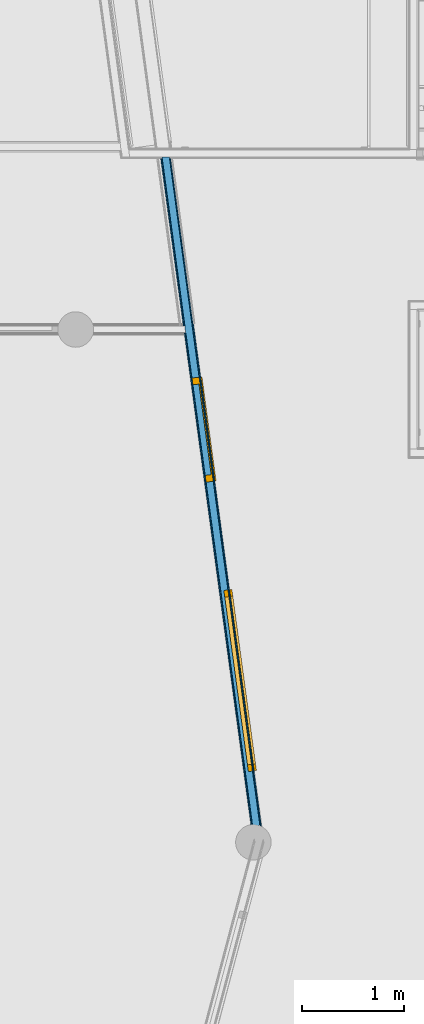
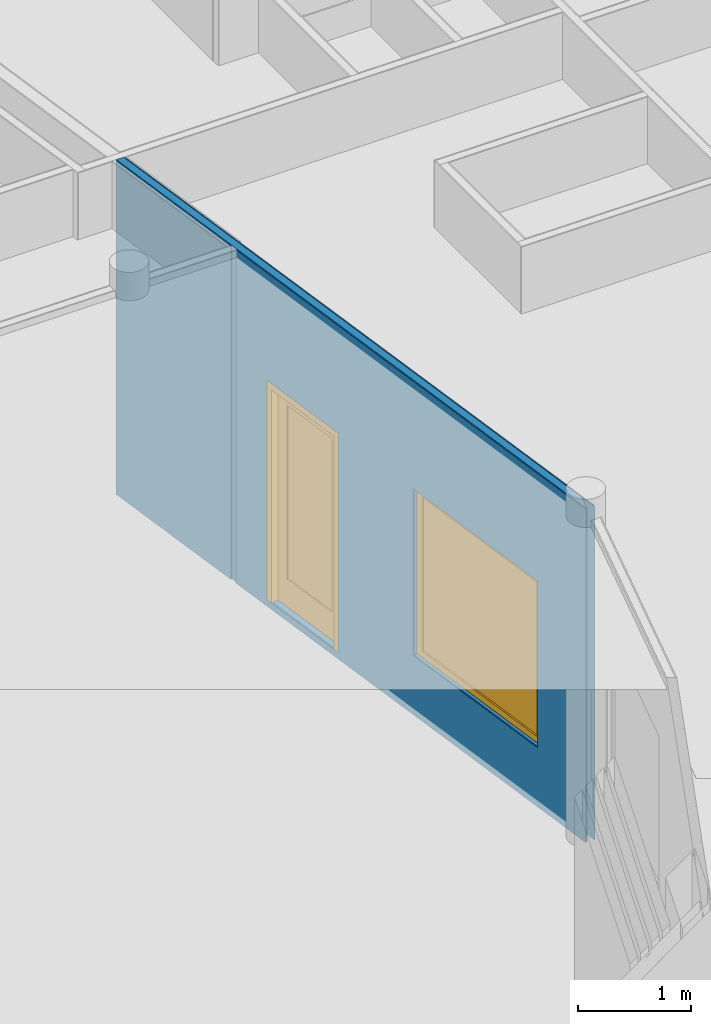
# One storey, part 33 of 167: 3 building element parts, 1 door, 1 window, 2 openings, 1 element without a shape of its own.
"""IFC2X3 building model written with IfcOpenShell, lengths in millimetres."""

from ifc_helpers import new_model, entity, si_unit, converted_unit, derived_unit, money_unit, direction, frame, origin_with_axes, place, context, subcontext, project, spatial, open_shell, faceted_brep, surface_model, source, transform, mapped, material, type_object, type_shapes, element, fill, aggregate, save


model = new_model("IFC2X3")

# Units and contexts
model_context = context("Model", 3, precision=0.01, world=origin_with_axes(), true_north=direction((0.0, 1.0)))
plan_context = context("Plan", 3, precision=0.01, world=origin_with_axes(), true_north=direction((0.0, 1.0)))
body_context = subcontext(model_context, "Body", "Model", "MODEL_VIEW")
ifc_project = project(units=[si_unit("LENGTHUNIT", "METRE", prefix="MILLI"), si_unit("AREAUNIT", "SQUARE_METRE"), si_unit("VOLUMEUNIT", "CUBIC_METRE"), converted_unit("PLANEANGLEUNIT", "DEGREE", entity("IfcPlaneAngleMeasure", 0.0174532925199), si_unit("PLANEANGLEUNIT", "RADIAN"), dimensions=[0, 0, 0, 0, 0, 0, 0]), si_unit("SOLIDANGLEUNIT", "STERADIAN"), money_unit("EUR"), converted_unit("TIMEUNIT", "Year", entity("IfcTimeMeasure", 31556926.0), si_unit("TIMEUNIT", "SECOND"), dimensions=[0, 0, 1, 0, 0, 0, 0]), si_unit("MASSUNIT", "GRAM", prefix="KILO"), si_unit("THERMODYNAMICTEMPERATUREUNIT", "DEGREE_CELSIUS"), si_unit("LUMINOUSINTENSITYUNIT", "LUMEN"), si_unit("ENERGYUNIT", "JOULE", prefix="MEGA"), derived_unit("THERMALCONDUCTANCEUNIT", [(si_unit("POWERUNIT", "WATT"), 1), (si_unit("LENGTHUNIT", "METRE"), -1), (si_unit("THERMODYNAMICTEMPERATUREUNIT", "KELVIN"), -1)]), derived_unit("SPECIFICHEATCAPACITYUNIT", [(si_unit("ENERGYUNIT", "JOULE"), 1), (si_unit("MASSUNIT", "GRAM", prefix="KILO"), -1), (si_unit("THERMODYNAMICTEMPERATUREUNIT", "KELVIN"), -1)]), derived_unit("MASSDENSITYUNIT", [(si_unit("MASSUNIT", "GRAM", prefix="KILO"), 1), (si_unit("VOLUMEUNIT", "CUBIC_METRE"), -1)])], contexts=[model_context, plan_context])

# Site, building, storey
site_placement = place(None, origin_with_axes())
site = spatial("IfcSite", under=ifc_project, at=site_placement, Name="Site", CompositionType="ELEMENT")
building_placement = place(site_placement, origin_with_axes())
building = spatial("IfcBuilding", under=site, at=building_placement, Name="Naam gebouw", CompositionType="ELEMENT")
storey_placement = place(building_placement, origin_with_axes())
storey = spatial("IfcBuildingStorey", under=building, at=storey_placement, Name="Begane grond", CompositionType="ELEMENT", Elevation=0.0)

# Window
window_style = type_object("IfcWindowStyle", Name="R1 24", ConstructionType="NOTDEFINED", OperationType="SINGLE_PANEL", ParameterTakesPrecedence=False, Sizeable=False)
shared_shape = source(origin_with_axes(), body_context, "Body", "SurfaceModel", [
    faceted_brep([(-833.0, -80.0, 1733.0), (-833.0, 0.0, 1733.0), (-900.0, 0.0, 1733.0), (-900.0, -80.0, 1733.0), (-833.0, -80.0, 67.0), (-833.0, 0.0, 67.0), (-900.0, 0.0, 67.0), (-900.0, -80.0, 67.0)], [[[0, 1, 2, 3]], [[4, 5, 1, 0]], [[1, 5, 6, 2]], [[3, 2, 6, 7]], [[0, 3, 7, 4]], [[7, 6, 5, 4]]]),
    faceted_brep([(833.0, -80.0, 67.0), (833.0, 0.0, 67.0), (900.0, 0.0, 67.0), (900.0, -80.0, 67.0), (833.0, -80.0, 1733.0), (833.0, 0.0, 1733.0), (900.0, 0.0, 1733.0), (900.0, -80.0, 1733.0)], [[[0, 1, 2, 3]], [[4, 5, 1, 0]], [[1, 5, 6, 2]], [[3, 2, 6, 7]], [[0, 3, 7, 4]], [[7, 6, 5, 4]]]),
    faceted_brep([(-833.0, -80.0, 67.0), (-833.0, 0.0, 67.0), (-900.0, 0.0, 67.0), (-900.0, -80.0, 67.0), (833.0, -80.0, 67.0), (833.0, 0.0, 67.0), (900.0, 0.0, 67.0), (900.0, 0.0, 0.0), (-900.0, 0.0, 0.0), (-900.0, -80.0, 0.0), (900.0, -80.0, 0.0), (900.0, -80.0, 67.0)], [[[0, 1, 2, 3]], [[4, 5, 1, 0]], [[1, 5, 6, 7, 8, 2]], [[3, 2, 8, 9]], [[0, 3, 9, 10, 11, 4]], [[11, 6, 5, 4]], [[10, 7, 6, 11]], [[9, 8, 7, 10]]]),
    faceted_brep([(833.0, -80.0, 1733.0), (833.0, 0.0, 1733.0), (900.0, 0.0, 1733.0), (900.0, -80.0, 1733.0), (-833.0, -80.0, 1733.0), (-833.0, 0.0, 1733.0), (-900.0, 0.0, 1733.0), (-900.0, 0.0, 1800.0), (900.0, 0.0, 1800.0), (900.0, -80.0, 1800.0), (-900.0, -80.0, 1800.0), (-900.0, -80.0, 1733.0)], [[[0, 1, 2, 3]], [[4, 5, 1, 0]], [[1, 5, 6, 7, 8, 2]], [[3, 2, 8, 9]], [[0, 3, 9, 10, 11, 4]], [[11, 6, 5, 4]], [[10, 7, 6, 11]], [[9, 8, 7, 10]]]),
    surface_model("IfcShellBasedSurfaceModel", [(-833.0, -64.0, 67.0), (833.0, -64.0, 67.0), (833.0, -64.0, 1733.0), (-833.0, -64.0, 1733.0)], [open_shell([[[0, 1, 2, 3]]])]),
    surface_model("IfcShellBasedSurfaceModel", [(-833.0, -44.0, 67.0), (-833.0, -44.0, 1733.0), (833.0, -44.0, 1733.0), (833.0, -44.0, 67.0)], [open_shell([[[0, 1, 2, 3]]])]),
])
type_shapes(window_style, [shared_shape])
wall_placement = place(storey_placement, frame((22480.8662525, 35586.3530919, -100.0), z_axis=(0.0, 0.0, 1.0), x_axis=(0.134213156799, -0.990952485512, 0.0)))
opening_1_placement = place(wall_placement, frame((5242.15777039, 0.0, 669.0), z_axis=(0.0, 0.0, 1.0), x_axis=(1.0, 0.0, 0.0)))
window_placement = place(opening_1_placement, frame((-900.0, 0.0, 0.0), z_axis=(0.0, 0.0, 1.0), x_axis=(1.0, 0.0, 0.0)))
window = element("IfcWindow", 1, at=window_placement, inside=storey, type_object=window_style, Name="31_Raam_Hi-47", ObjectType="WINDOW", OverallHeight=1800.0, OverallWidth=1800.0, context=body_context, shape_type="MappedRepresentation", body=[
    mapped(shared_shape, transform((900.0, 75.0, 0.0))),
])

# Door
door_style = type_object("IfcDoorStyle", Name="D1 24", ConstructionType="NOTDEFINED", OperationType="SINGLE_SWING_LEFT", ParameterTakesPrecedence=False, Sizeable=False)
opening_2_placement = place(wall_placement, frame((2745.53432515, 0.0, 102.0), z_axis=(0.0, 0.0, 1.0), x_axis=(1.0, 0.0, 0.0)))
door_placement = place(opening_2_placement, frame((-517.0, 0.0, 0.0), z_axis=(0.0, 0.0, 1.0), x_axis=(1.0, 0.0, 0.0)))
door = element("IfcDoor", 2, at=door_placement, inside=storey, type_object=door_style, Name="32_Deur_Hi-05a", ObjectType="DOOR", OverallHeight=2367.0, OverallWidth=1034.0, context=body_context, shape_type="SurfaceModel", body=[
    faceted_brep([(967.0, 24.0, 0.0), (967.0, -50.0, 0.0), (967.0, -50.0, 2300.0), (967.0, 24.0, 2300.0), (992.0, 24.0, 0.0), (992.0, 64.0, 0.0), (1034.0, 64.0, 0.0), (1034.0, -50.0, 0.0), (1034.0, -50.0, 2300.0), (992.0, 24.0, 2300.0), (1034.0, 64.0, 2300.0), (992.0, 64.0, 2300.0)], [[[0, 1, 2, 3]], [[4, 5, 6, 7, 1, 0]], [[1, 7, 8, 2]], [[9, 3, 2, 8, 10, 11]], [[9, 4, 0, 3]], [[11, 5, 4, 9]], [[11, 10, 6, 5]], [[6, 10, 8, 7]]]),
    faceted_brep([(42.0, 24.0, 2300.0), (42.0, 64.0, 2300.0), (0.0, 64.0, 2300.0), (0.0, -50.0, 2300.0), (67.0, -50.0, 2300.0), (67.0, 24.0, 2300.0), (42.0, 24.0, 0.0), (42.0, 64.0, 0.0), (0.0, 64.0, 0.0), (0.0, -50.0, 0.0), (67.0, -50.0, 0.0), (67.0, 24.0, 0.0)], [[[0, 1, 2, 3, 4, 5]], [[0, 6, 7, 1]], [[7, 8, 2, 1]], [[2, 8, 9, 3]], [[3, 9, 10, 4]], [[5, 4, 10, 11]], [[5, 11, 6, 0]], [[6, 11, 10, 9, 8, 7]]]),
    faceted_brep([(992.0, 64.0, 2325.0), (42.0, 64.0, 2325.0), (42.0, 64.0, 2300.0), (0.0, 64.0, 2300.0), (0.0, 64.0, 2367.0), (1034.0, 64.0, 2367.0), (1034.0, 64.0, 2300.0), (992.0, 64.0, 2300.0), (992.0, 24.0, 2325.0), (42.0, 24.0, 2325.0), (42.0, 24.0, 2300.0), (67.0, 24.0, 2300.0), (67.0, -50.0, 2300.0), (0.0, -50.0, 2300.0), (0.0, -50.0, 2367.0), (1034.0, -50.0, 2367.0), (1034.0, -50.0, 2300.0), (992.0, 24.0, 2300.0), (967.0, -50.0, 2300.0), (967.0, 24.0, 2300.0)], [[[0, 1, 2, 3, 4, 5, 6, 7]], [[0, 8, 9, 1]], [[1, 9, 10, 2]], [[10, 11, 12, 13, 3, 2]], [[4, 3, 13, 14]], [[5, 4, 14, 15]], [[6, 5, 15, 16]], [[17, 7, 6, 16, 18, 19]], [[7, 17, 8, 0]], [[10, 9, 8, 17, 19, 11]], [[19, 18, 12, 11]], [[12, 18, 16, 15, 14, 13]]]),
    faceted_brep([(42.0, 64.0, 300.0), (192.0, 64.0, 300.0), (192.0, 24.0, 300.0), (42.0, 24.0, 300.0), (42.0, 64.0, 2175.0), (192.0, 64.0, 2175.0), (192.0, 24.0, 2175.0), (42.0, 24.0, 2175.0)], [[[0, 1, 2, 3]], [[0, 4, 5, 1]], [[1, 5, 6, 2]], [[3, 2, 6, 7]], [[4, 0, 3, 7]], [[5, 4, 7, 6]]]),
    faceted_brep([(992.0, 64.0, 300.0), (992.0, 64.0, 2175.0), (992.0, 24.0, 2175.0), (992.0, 24.0, 300.0), (842.0, 64.0, 300.0), (842.0, 64.0, 2175.0), (842.0, 24.0, 2175.0), (842.0, 24.0, 300.0)], [[[0, 1, 2, 3]], [[0, 4, 5, 1]], [[1, 5, 6, 2]], [[3, 2, 6, 7]], [[4, 0, 3, 7]], [[5, 4, 7, 6]]]),
    faceted_brep([(42.0, 64.0, 0.0), (992.0, 64.0, 0.0), (992.0, 24.0, 0.0), (42.0, 24.0, 0.0), (42.0, 64.0, 300.0), (192.0, 64.0, 300.0), (842.0, 64.0, 300.0), (992.0, 64.0, 300.0), (992.0, 24.0, 300.0), (842.0, 24.0, 300.0), (192.0, 24.0, 300.0), (42.0, 24.0, 300.0)], [[[0, 1, 2, 3]], [[0, 4, 5, 6, 7, 1]], [[1, 7, 8, 2]], [[3, 2, 8, 9, 10, 11]], [[4, 0, 3, 11]], [[5, 4, 11, 10]], [[6, 5, 10, 9]], [[7, 6, 9, 8]]]),
    faceted_brep([(42.0, 64.0, 2325.0), (42.0, 64.0, 2175.0), (42.0, 24.0, 2175.0), (42.0, 24.0, 2325.0), (992.0, 64.0, 2325.0), (992.0, 64.0, 2175.0), (842.0, 64.0, 2175.0), (192.0, 64.0, 2175.0), (192.0, 24.0, 2175.0), (842.0, 24.0, 2175.0), (992.0, 24.0, 2175.0), (992.0, 24.0, 2325.0)], [[[0, 1, 2, 3]], [[0, 4, 5, 6, 7, 1]], [[1, 7, 8, 2]], [[3, 2, 8, 9, 10, 11]], [[4, 0, 3, 11]], [[5, 4, 11, 10]], [[6, 5, 10, 9]], [[7, 6, 9, 8]]]),
    surface_model("IfcShellBasedSurfaceModel", [(192.0, 50.0, 300.0), (192.0, 50.0, 2175.0), (842.0, 50.0, 2175.0), (842.0, 50.0, 300.0)], [open_shell([[[0, 1, 2, 3]]])]),
    surface_model("IfcShellBasedSurfaceModel", [(192.0, 38.0, 300.0), (842.0, 38.0, 300.0), (842.0, 38.0, 2175.0), (192.0, 38.0, 2175.0)], [open_shell([[[0, 1, 2, 3]]])]),
])

# Wall, opening
wall_type = type_object("IfcWallType", Name="_TenW_22_Metalstud 100 enkel gipsvezelplaat 100", PredefinedType="NOTDEFINED")
wall = element("IfcWall", 3, at=wall_placement, inside=storey, type_object=wall_type, Name="22_Wand_Wand-x")
opening_1 = element("IfcOpeningElement", 4, at=opening_1_placement, cuts=wall, Name="31_Raam_Hi-47", context=body_context, shape_type="Brep", body=[
    faceted_brep([(900.0, -100.0, 1800.0), (900.0, -100.0, 0.0), (900.0, 225.0, 0.0), (900.0, 225.0, 1800.0), (-900.0, -100.0, 1800.0), (-900.0, -100.0, 0.0), (-900.0, 225.0, 0.0), (-900.0, 225.0, 1800.0)], [[[0, 1, 2, 3]], [[0, 4, 5, 1]], [[1, 5, 6, 2]], [[3, 2, 6, 7]], [[4, 0, 3, 7]], [[5, 4, 7, 6]]]),
])

fill(opening_1, window)

# Opening
opening_2 = element("IfcOpeningElement", 5, at=opening_2_placement, cuts=wall, Name="32_Deur_Hi-05a", context=body_context, shape_type="Brep", body=[
    faceted_brep([(-517.0, -200.0, 0.0), (-517.0, -200.0, 2367.0), (-517.0, 100.0, 2367.0), (-517.0, 100.0, 0.0), (517.0, -200.0, 0.0), (517.0, -200.0, 2367.0), (517.0, 100.0, 2367.0), (517.0, 100.0, 0.0)], [[[0, 1, 2, 3]], [[0, 4, 5, 1]], [[1, 5, 6, 2]], [[3, 2, 6, 7]], [[4, 0, 3, 7]], [[5, 4, 7, 6]]]),
])

fill(opening_2, door)

# Building element part
ifc_material_1 = material(Name="Gipsplaat watervast")
building_element_part_1_placement = place(wall_placement, origin_with_axes())
building_element_part_1 = element("IfcBuildingElementPart", 6, at=building_element_part_1_placement, material=ifc_material_1, Name="Gipsplaat watervast", context=body_context, shape_type="Brep", body=[
    faceted_brep([(6855.80771652, 37.5, 30.0), (6855.80771652, 37.5, 3630.0), (55.5353577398, 37.5, 3630.0), (55.5353577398, 37.5, 30.0), (6848.31330573, 37.5, 30.0), (4342.15777039, 37.5, 2469.0), (6142.15777039, 37.5, 2469.0), (6142.15777039, 37.5, 669.0), (4342.15777039, 37.5, 669.0), (2228.53432515, 37.5, 102.0), (2228.53432515, 37.5, 2469.0), (3262.53432515, 37.5, 2469.0), (3262.53432515, 37.5, 102.0), (6825.78348673, 49.9999968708, 30.0), (6825.78348673, 49.9999968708, 3630.0), (6848.31330573, 40.6201503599, 30.0), (57.2283394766, 50.0, 3630.0), (57.2283394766, 50.0, 30.0), (6142.15777039, 50.0, 2469.0), (4342.15777039, 50.0, 2469.0), (6142.15777039, 50.0, 669.0), (4342.15777039, 50.0, 669.0), (2228.53432515, 49.9999968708, 102.0), (2228.53432515, 49.9999968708, 2469.0), (3262.53432515, 49.9999968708, 2469.0), (3262.53432515, 49.9999968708, 102.0)], [[[0, 1, 2, 3, 4], [5, 6, 7, 8], [9, 10, 11, 12]], [[13, 14, 1, 0, 15]], [[16, 2, 1, 14]], [[17, 3, 2, 16]], [[3, 17, 13, 15, 4]], [[4, 15, 0]], [[18, 6, 5, 19]], [[20, 7, 6, 18]], [[21, 8, 7, 20]], [[19, 5, 8, 21]], [[22, 23, 10, 9]], [[23, 24, 11, 10]], [[24, 25, 12, 11]], [[25, 22, 9, 12]], [[13, 17, 16, 14], [20, 18, 19, 21], [22, 25, 24, 23]]]),
])

ifc_material_2 = material(Name="Isolatie - Steenwol zacht")
building_element_part_2_placement = place(wall_placement, origin_with_axes())
building_element_part_2 = element("IfcBuildingElementPart", 7, at=building_element_part_2_placement, material=ifc_material_2, Name="Isolatie - Steenwol zacht", context=body_context, shape_type="Brep", body=[
    faceted_brep([(32.763340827, -37.5, 30.0), (6840.81889495, -37.5, 30.0), (6840.81889495, -37.5, 3630.0), (32.763340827, -37.5, 3630.0), (4342.15777039, -37.5, 2469.0), (6142.15777039, -37.5, 2469.0), (6142.15777039, -37.5, 669.0), (4342.15777039, -37.5, 669.0), (2228.53432515, -37.5, 102.0), (2228.53432515, -37.5, 2469.0), (3262.53432515, -37.5, 2469.0), (3262.53432515, -37.5, 102.0), (42.9212312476, 37.5, 30.0), (6660.67347115, 37.5, 30.0), (6660.67347115, 37.5, 3630.0), (42.9212312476, 37.5, 3630.0), (6142.15777039, 37.5, 2469.0), (4342.15777039, 37.5, 2469.0), (6142.15777039, 37.5, 669.0), (4342.15777039, 37.5, 669.0), (2228.53432515, 37.5, 102.0), (2228.53432515, 37.5, 2469.0), (3262.53432515, 37.5, 2469.0), (3262.53432515, 37.5, 102.0)], [[[0, 1, 2, 3], [4, 5, 6, 7], [8, 9, 10, 11]], [[1, 0, 12, 13]], [[1, 13, 14, 2]], [[15, 3, 2, 14]], [[12, 0, 3, 15]], [[16, 5, 4, 17]], [[18, 6, 5, 16]], [[19, 7, 6, 18]], [[17, 4, 7, 19]], [[20, 21, 9, 8]], [[21, 22, 10, 9]], [[22, 23, 11, 10]], [[23, 20, 8, 11]], [[13, 12, 15, 14], [18, 16, 17, 19], [20, 23, 22, 21]]]),
])

building_element_part_3_placement = place(wall_placement, origin_with_axes())
building_element_part_3 = element("IfcBuildingElementPart", 8, at=building_element_part_3_placement, material=ifc_material_1, Name="Gipsplaat watervast", context=body_context, shape_type="Brep", body=[
    faceted_brep([(45.3774673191, -37.5, 3630.0), (1707.57278716, -37.5, 3630.0), (1707.57278716, -37.5, 30.0), (45.3774673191, -37.5, 30.0), (1705.87980542, -50.0, 3630.0), (43.6844855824, -50.0, 3630.0), (1705.87980542, -50.0, 30.0), (43.6844855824, -50.0, 30.0)], [[[0, 1, 2, 3]], [[4, 1, 0, 5]], [[1, 4, 6, 2]], [[3, 2, 6, 7]], [[5, 0, 3, 7]], [[4, 5, 7, 6]]]),
    faceted_brep([(1781.56456437, -50.0, 30.0), (6838.32075802, -50.0, 30.0), (6838.32075802, -50.0, 3630.0), (1781.56456437, -50.0, 3630.0), (4342.15777039, -50.0, 2469.0), (6142.15777039, -50.0, 2469.0), (6142.15777039, -50.0, 669.0), (4342.15777039, -50.0, 669.0), (2228.53432515, -50.0, 102.0), (2228.53432515, -50.0, 2469.0), (3262.53432515, -50.0, 2469.0), (3262.53432515, -50.0, 102.0), (1783.25754611, -37.5, 30.0), (6808.29652072, -37.5, 30.0), (6808.29652072, -37.5, 3630.0), (1783.25754611, -37.5, 3630.0), (6142.15777039, -37.5, 2469.0), (4342.15777039, -37.5, 2469.0), (6142.15777039, -37.5, 669.0), (4342.15777039, -37.5, 669.0), (2228.53432515, -37.5, 102.0), (2228.53432515, -37.5, 2469.0), (3262.53432515, -37.5, 2469.0), (3262.53432515, -37.5, 102.0)], [[[0, 1, 2, 3], [4, 5, 6, 7], [8, 9, 10, 11]], [[1, 0, 12, 13]], [[1, 13, 14, 2]], [[15, 3, 2, 14]], [[12, 0, 3, 15]], [[16, 5, 4, 17]], [[18, 6, 5, 16]], [[19, 7, 6, 18]], [[17, 4, 7, 19]], [[20, 21, 9, 8]], [[21, 22, 10, 9]], [[22, 23, 11, 10]], [[23, 20, 8, 11]], [[13, 12, 15, 14], [18, 16, 17, 19], [20, 23, 22, 21]]]),
])

aggregate(wall, [building_element_part_1, building_element_part_2, building_element_part_3])

save(model, "model.ifc")
